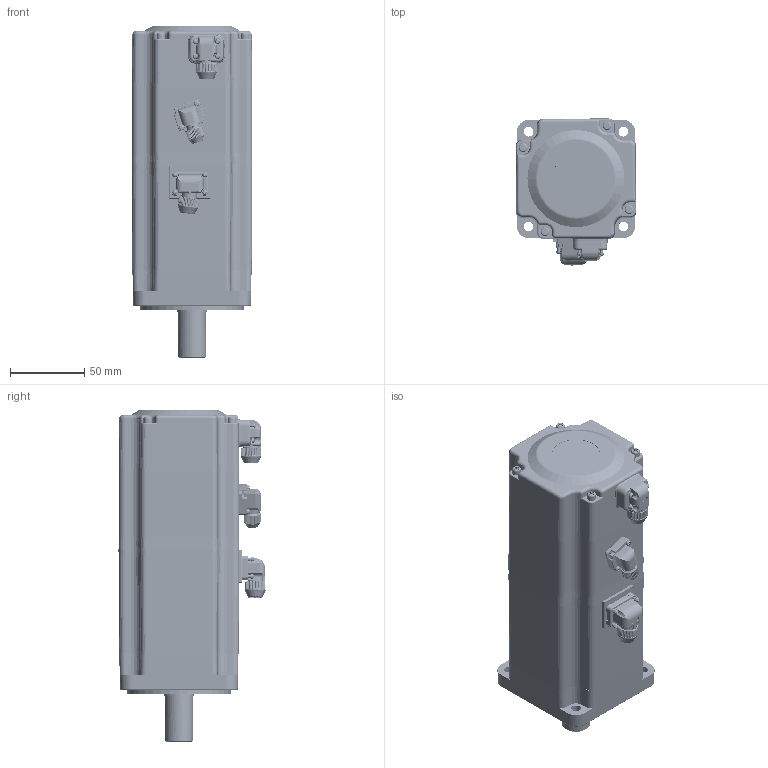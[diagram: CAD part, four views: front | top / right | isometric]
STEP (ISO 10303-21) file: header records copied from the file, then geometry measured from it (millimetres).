
FILE_DESCRIPTION((''),'2;1');
FILE_NAME('80-750W-1','2017-05-26T',('Administrator'),(''),'PRO/ENGINEER BY PARAMETRIC TECHNOLOGY CORPORATION, 2010280','PRO/ENGINEER BY PARAMETRIC TECHNOLOGY CORPORATION, 2010280','');
FILE_SCHEMA(('CONFIG_CONTROL_DESIGN'));
Products named in the file (1): 80-750W-1
Bounding box: 81.11 x 98.76 x 223 mm (x, y, z)
Volume: 573556.2 mm3; surface area: 181298.8 mm2
Topology: 47 solids, 84 shells, 9420 faces, 23804 edges, 14364 vertices
Faces by surface type: plane 5180, cylinder 1797, bspline 1185, cone 619, torus 278, sphere 199, extrusion 145, revolution 17
Entity records: 348523 total; most frequent: CARTESIAN_POINT 135047, ORIENTED_EDGE 46631, DIRECTION 39624, EDGE_CURVE 23581, VECTOR 14717, LINE 14572, VERTEX_POINT 14364, AXIS2_PLACEMENT_3D 12445
